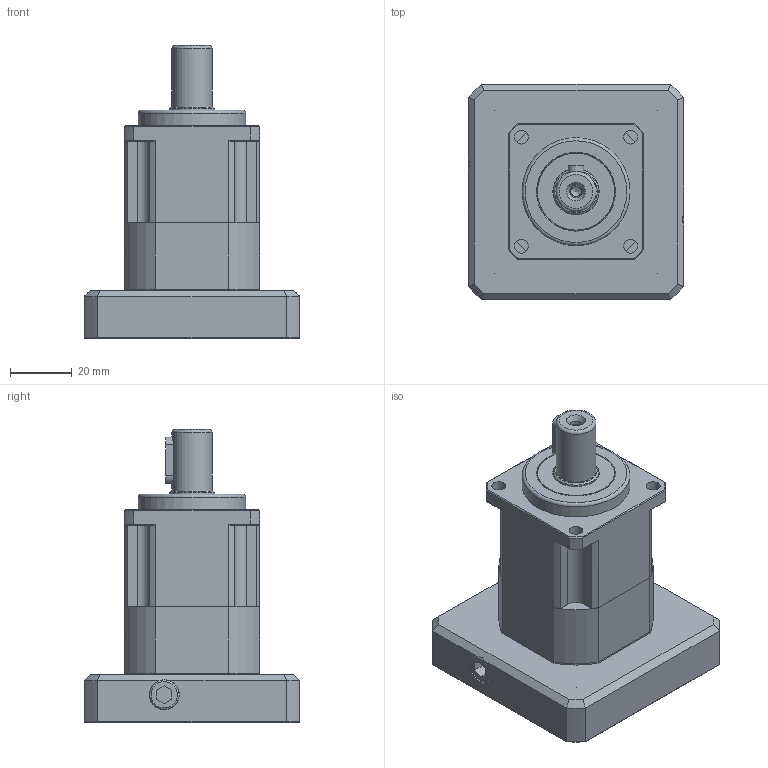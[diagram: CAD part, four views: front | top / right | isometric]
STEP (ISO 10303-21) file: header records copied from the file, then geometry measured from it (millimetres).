
FILE_DESCRIPTION((''),'2;1');
FILE_NAME('D:\WORK\감속기 도면\조립도(서보규격별)\KSB_PGX-H\KSB-44 (PGX44-H)\KSB-44-1(60-75-M5-S11) 특주.stp','2019-04-25T16:07:20',('Young'),(''),'Autodesk Inventor 2012','Autodesk Inventor 2012','');
FILE_SCHEMA(('AUTOMOTIVE_DESIGN { 1 0 10303 214 1 1 1 1 }'));
Length unit declared in the file: millimetre
Products named in the file (4): 조립품5; PGX44-H-1(S11); 44-BK(60-75-M5); BS 4168 : 부품 1 6각 소켓 머리 캡 나사 - 미터 M4 x 10
Assembly tree (6 placements, depth 2):
  조립품5
    PGX44-H-1(S11)
    44-BK(60-75-M5)
    BS 4168 : 부품 1 6각 소켓 머리 캡 나사 - 미터 M4 x 10  x4
Bounding box: 70 x 70 x 95 mm (x, y, z)
Volume: 126942.8 mm3; surface area: 48157.8 mm2
Topology: 16 solids, 16 shells, 427 faces, 1042 edges, 673 vertices
Faces by surface type: plane 225, cylinder 114, cone 65, torus 14, bspline 9
Full cylindrical faces by diameter (mm): 2.5 x4, 3.242 x1, 3.3 x5, 4 x6, 4.2 x8, 4.5 x9, 6 x4, 7 x5, 9.5 x2, 11 x1, 13 x1, 14.2 x1, 14.8 x2, 15 x3, 25 x4, 28 x1, 30 x1, 32 x3, 35 x1, 60 x1
Entity records: 11592 total; most frequent: CARTESIAN_POINT 2857, DIRECTION 1767, ORIENTED_EDGE 1646, EDGE_CURVE 823, AXIS2_PLACEMENT_3D 671, VERTEX_POINT 582, EDGE_LOOP 537, VECTOR 425
